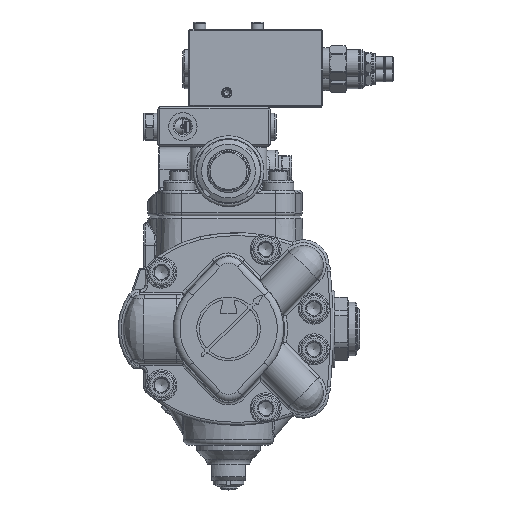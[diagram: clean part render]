
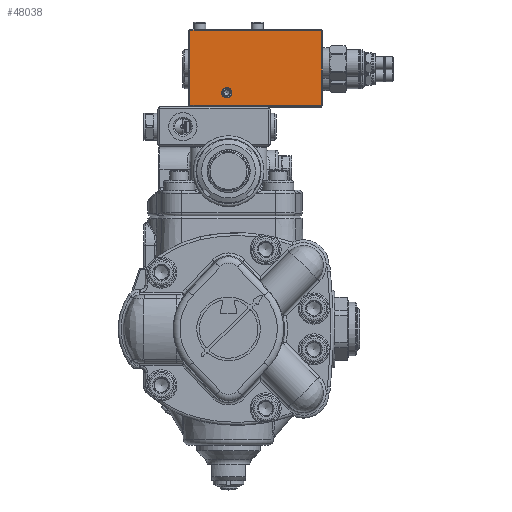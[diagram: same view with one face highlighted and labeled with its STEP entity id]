
A CAD part, top view. The second image highlights one B-rep face of the part: STEP entity #48038.
In plain terms, the highlighted planar face has unit normal (0, 0, 1).
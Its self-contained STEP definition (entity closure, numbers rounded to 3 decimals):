
#588=FACE_BOUND('',#8924,.T.);
#2028=PLANE('',#52538);
#6099=FACE_OUTER_BOUND('',#8923,.T.);
#8923=EDGE_LOOP('',(#40611,#40612,#40613,#40614));
#8924=EDGE_LOOP('',(#40615));
#11440=CIRCLE('',#52539,3.6);
#14357=LINE('',#96242,#17099);
#14358=LINE('',#96244,#17100);
#14359=LINE('',#96246,#17101);
#14360=LINE('',#96247,#17102);
#17099=VECTOR('',#64041,10.);
#17100=VECTOR('',#64042,10.);
#17101=VECTOR('',#64043,10.);
#17102=VECTOR('',#64044,10.);
#21231=VERTEX_POINT('',#96240);
#21232=VERTEX_POINT('',#96241);
#21233=VERTEX_POINT('',#96243);
#21234=VERTEX_POINT('',#96245);
#21235=VERTEX_POINT('',#96248);
#27840=EDGE_CURVE('',#21231,#21232,#14357,.T.);
#27841=EDGE_CURVE('',#21233,#21231,#14358,.T.);
#27842=EDGE_CURVE('',#21234,#21233,#14359,.T.);
#27843=EDGE_CURVE('',#21232,#21234,#14360,.T.);
#27844=EDGE_CURVE('',#21235,#21235,#11440,.T.);
#40611=ORIENTED_EDGE('',*,*,#27840,.F.);
#40612=ORIENTED_EDGE('',*,*,#27841,.F.);
#40613=ORIENTED_EDGE('',*,*,#27842,.F.);
#40614=ORIENTED_EDGE('',*,*,#27843,.F.);
#40615=ORIENTED_EDGE('',*,*,#27844,.T.);
#48038=ADVANCED_FACE('',(#6099,#588),#2028,.T.);
#52538=AXIS2_PLACEMENT_3D('',#96239,#64039,#64040);
#52539=AXIS2_PLACEMENT_3D('',#96249,#64045,#64046);
#64039=DIRECTION('center_axis',(0.,0.,
1.));
#64040=DIRECTION('ref_axis',(0.,1.,0.));
#64041=DIRECTION('',(1.,0.,0.));
#64042=DIRECTION('',(0.,1.,0.));
#64043=DIRECTION('',(-1.,0.,0.));
#64044=DIRECTION('',(0.,-1.,0.));
#64045=DIRECTION('center_axis',(0.,0.,
-1.));
#64046=DIRECTION('ref_axis',(1.,0.,0.));
#96239=CARTESIAN_POINT('Origin',(100.297,202.193,74.283));
#96240=CARTESIAN_POINT('',(101.297,201.193,74.283));
#96241=CARTESIAN_POINT('',(194.297,201.193,74.283));
#96242=CARTESIAN_POINT('',(124.047,201.193,74.283));
#96243=CARTESIAN_POINT('',(101.297,148.193,74.283));
#96244=CARTESIAN_POINT('',(101.297,202.193,74.283));
#96245=CARTESIAN_POINT('',(194.297,148.193,74.283));
#96246=CARTESIAN_POINT('',(124.047,148.193,74.283));
#96247=CARTESIAN_POINT('',(194.297,202.193,74.283));
#96248=CARTESIAN_POINT('',(123.697,157.193,74.283));
#96249=CARTESIAN_POINT('Origin',(127.297,157.193,74.283));
